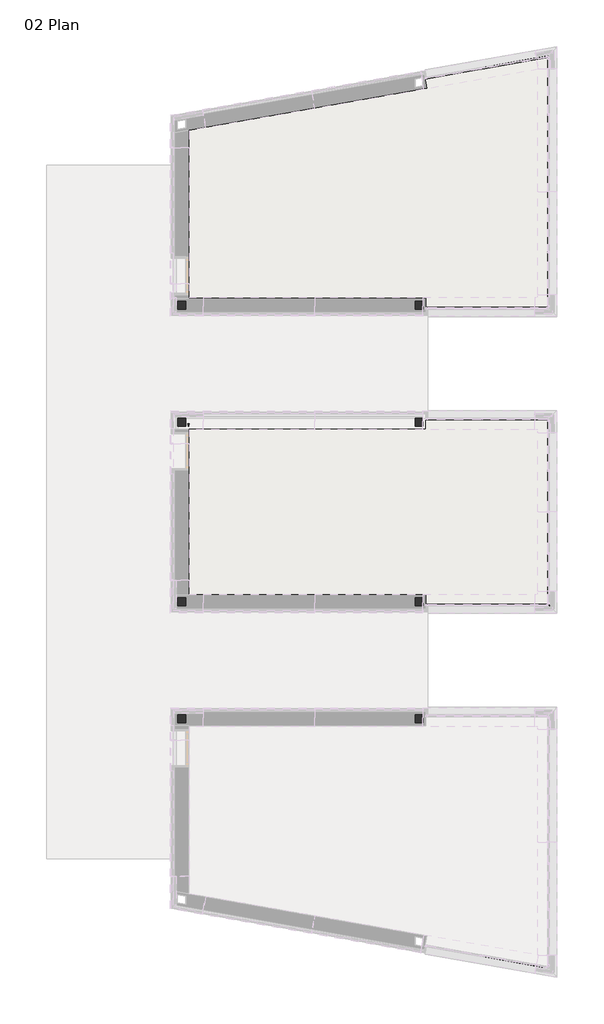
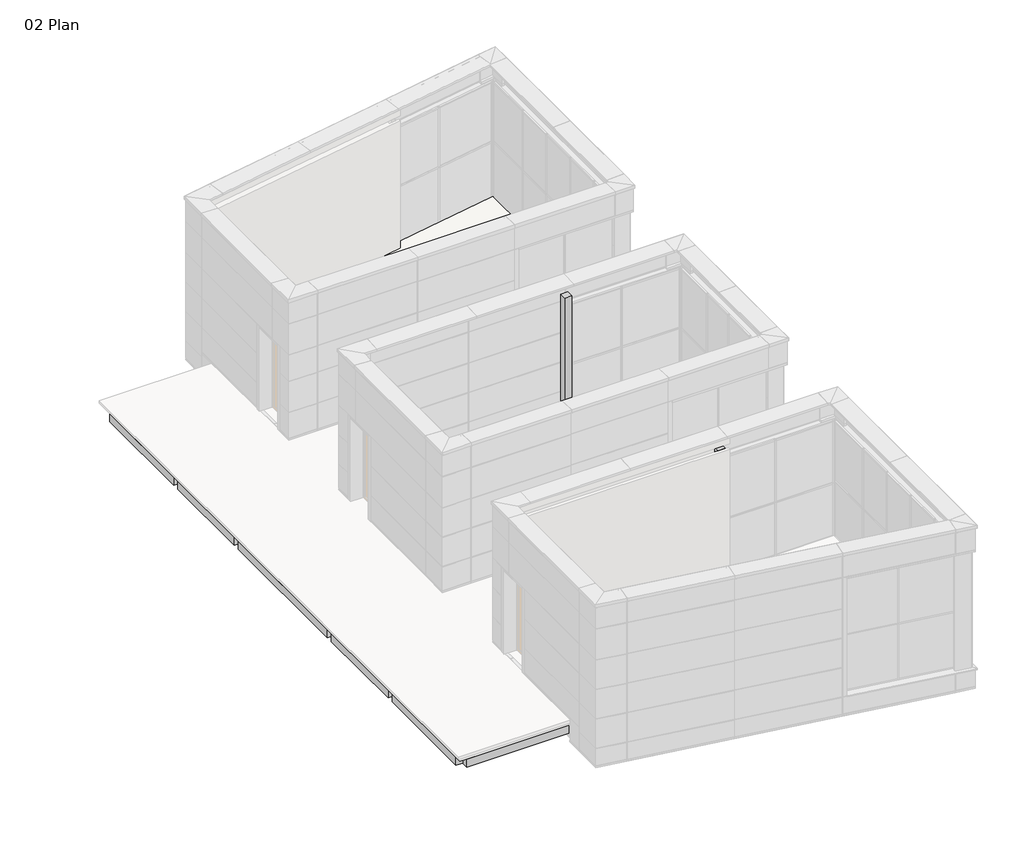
# One storey, part 6 of 6: 14 beams, 8 columns, 3 proxies, 2 slabs.
"""IFC4 building model written with IfcOpenShell, lengths in millimetres."""

from ifc_helpers import new_model, si_unit, frame, origin, place, context, project, spatial, polyline, outline, extrude, faceted_brep, transform, mapped, element, save
from components import m_support_metal_circular_m_support_metal_circular_a779fbb7

model = new_model("IFC4")

# Units and contexts
model_context = context("Model", 3, world=origin())
ifc_project = project(units=[si_unit("LENGTHUNIT", "METRE", prefix="MILLI")], contexts=[model_context])

# Site, building, storey
site = spatial("IfcSite", under=ifc_project)
building = spatial("IfcBuilding", under=site)
storey = spatial("IfcBuildingStorey", under=building, Name="02 Plan", Elevation=0.0)

# Beams
placement = place(None, origin())
element("IfcBeam", 1, ObjectType="M_Concrete-Rectangular Beam : Beam_Structural_Generic Showcase_250x500mm", at=placement, inside=storey, context=model_context, shape_type="Brep", body=[
    faceted_brep([(3950.6615063, 6495.5895435, -600.0), (4050.6615063, 6495.5895435, -600.0), (7650.6615063, 6495.5895435, -600.0), (8000.6615063, 6495.5895435, -600.0), (8000.6615063, 6495.5895435, -300.0), (3950.6615063, 6495.5895435, -300.0), (3950.6615063, 6745.5895435, -600.0), (4050.6615063, 6745.5895435, -600.0), (7650.6615063, 6745.5895435, -600.0), (7750.6615063, 6745.5895435, -600.0), (8000.6615063, 6745.5895435, -600.0), (3950.6615063, 6745.5895435, -300.0), (4050.6615063, 6745.5895435, -300.0), (7650.6615063, 6745.5895435, -300.0), (7750.6615063, 6745.5895435, -300.0), (8000.6615063, 6745.5895435, -300.0)], [[[0, 1, 2, 3, 4, 5]], [[0, 6, 7, 8, 9, 10, 3, 2, 1]], [[10, 9, 8, 7, 6, 11, 12, 13, 14, 15]], [[6, 0, 5, 11]], [[5, 4, 15, 14, 13, 12, 11]], [[3, 10, 15, 4]]]),
    faceted_brep([(-7699.3384937, 6745.5895435, -600.0), (-7699.3384937, 6495.5895435, -600.0), (-7699.3384937, 6495.5895435, -300.0), (-7699.3384937, 6745.5895435, -300.0), (-3899.3384937, 6495.5895435, -600.0), (-3899.3384937, 6745.5895435, -600.0), (-3899.3384937, 6745.5895435, -300.0), (-3899.3384937, 6495.5895435, -300.0), (-7599.3384937, 6495.5895435, -600.0), (-3999.3384937, 6495.5895435, -600.0), (-3999.3384937, 6495.5895435, -300.0), (-7599.3384937, 6495.5895435, -300.0), (-7599.3384937, 6745.5895435, -600.0), (-3999.3384937, 6745.5895435, -600.0), (-7599.3384937, 6745.5895435, -300.0), (-3999.3384937, 6745.5895435, -300.0)], [[[0, 1, 2, 3]], [[4, 5, 6, 7]], [[1, 8, 9, 4, 7, 10, 11, 2]], [[1, 0, 12, 13, 5, 4, 9, 8]], [[5, 13, 12, 0, 3, 14, 15, 6]], [[3, 2, 11, 10, 7, 6, 15, 14]]]),
    faceted_brep([(-3649.3384937, 6745.5895435, -600.0), (-3649.3384937, 6495.5895435, -600.0), (-3649.3384937, 6495.5895435, -300.0), (-3649.3384937, 6745.5895435, -300.0), (3700.6615063, 6495.5895435, -600.0), (3700.6615063, 6745.5895435, -600.0), (3700.6615063, 6745.5895435, -300.0), (3700.6615063, 6495.5895435, -300.0)], [[[0, 1, 2, 3]], [[4, 5, 6, 7]], [[1, 4, 7, 2]], [[1, 0, 5, 4]], [[5, 0, 3, 6]], [[3, 2, 7, 6]]]),
])
element("IfcBeam", 2, ObjectType="M_Concrete-Rectangular Beam : Beam_Structural_Generic Showcase_250x500mm", at=placement, inside=storey, context=model_context, shape_type="Brep", body=[
    faceted_brep([(3950.6615063, 2745.5895435, -600.0), (4050.6615063, 2745.5895435, -600.0), (7650.6615063, 2745.5895435, -600.0), (7750.6615063, 2745.5895435, -600.0), (8000.6615063, 2745.5895435, -600.0), (8000.6615063, 2745.5895435, -300.0), (7750.6615063, 2745.5895435, -300.0), (7650.6615063, 2745.5895435, -300.0), (4050.6615063, 2745.5895435, -300.0), (3950.6615063, 2745.5895435, -300.0), (3950.6615063, 2995.5895435, -600.0), (4050.6615063, 2995.5895435, -600.0), (7650.6615063, 2995.5895435, -600.0), (8000.6615063, 2995.5895435, -600.0), (3950.6615063, 2995.5895435, -300.0), (8000.6615063, 2995.5895435, -300.0)], [[[0, 1, 2, 3, 4, 5, 6, 7, 8, 9]], [[0, 10, 11, 12, 13, 4, 3, 2, 1]], [[13, 12, 11, 10, 14, 15]], [[10, 0, 9, 14]], [[9, 8, 7, 6, 5, 15, 14]], [[4, 13, 15, 5]]]),
    faceted_brep([(-7699.3384937, 2995.5895435, -600.0), (-7699.3384937, 2745.5895435, -600.0), (-7699.3384937, 2745.5895435, -300.0), (-7699.3384937, 2995.5895435, -300.0), (-3899.3384937, 2745.5895435, -600.0), (-3899.3384937, 2995.5895435, -600.0), (-3899.3384937, 2995.5895435, -300.0), (-3899.3384937, 2745.5895435, -300.0), (-7599.3384937, 2745.5895435, -600.0), (-3999.3384937, 2745.5895435, -600.0), (-3999.3384937, 2745.5895435, -300.0), (-7599.3384937, 2745.5895435, -300.0), (-7599.3384937, 2995.5895435, -600.0), (-3999.3384937, 2995.5895435, -600.0), (-7599.3384937, 2995.5895435, -300.0), (-3999.3384937, 2995.5895435, -300.0)], [[[0, 1, 2, 3]], [[4, 5, 6, 7]], [[1, 8, 9, 4, 7, 10, 11, 2]], [[1, 0, 12, 13, 5, 4, 9, 8]], [[5, 13, 12, 0, 3, 14, 15, 6]], [[3, 2, 11, 10, 7, 6, 15, 14]]]),
    faceted_brep([(-3649.3384937, 2995.5895435, -600.0), (-3649.3384937, 2745.5895435, -600.0), (-3649.3384937, 2745.5895435, -300.0), (-3649.3384937, 2995.5895435, -300.0), (3700.6615063, 2745.5895435, -600.0), (3700.6615063, 2995.5895435, -600.0), (3700.6615063, 2995.5895435, -300.0), (3700.6615063, 2745.5895435, -300.0)], [[[0, 1, 2, 3]], [[4, 5, 6, 7]], [[1, 4, 7, 2]], [[1, 0, 5, 4]], [[5, 0, 3, 6]], [[3, 2, 7, 6]]]),
])
element("IfcBeam", 3, ObjectType="M_Concrete-Rectangular Beam : Beam_Structural_Generic Showcase_250x500mm", at=placement, inside=storey, context=model_context, shape_type="Brep", body=[
    faceted_brep([(3950.6615063, -3004.4104565, -600.0), (4050.6615063, -3004.4104565, -600.0), (7650.6615063, -3004.4104565, -600.0), (8000.6615063, -3004.4104565, -600.0), (8000.6615063, -3004.4104565, -300.0), (3950.6615063, -3004.4104565, -300.0), (3950.6615063, -2754.4104565, -600.0), (4050.6615063, -2754.4104565, -600.0), (7650.6615063, -2754.4104565, -600.0), (7750.6615063, -2754.4104565, -600.0), (8000.6615063, -2754.4104565, -600.0), (3950.6615063, -2754.4104565, -300.0), (4050.6615063, -2754.4104565, -300.0), (7650.6615063, -2754.4104565, -300.0), (7750.6615063, -2754.4104565, -300.0), (8000.6615063, -2754.4104565, -300.0)], [[[0, 1, 2, 3, 4, 5]], [[0, 6, 7, 8, 9, 10, 3, 2, 1]], [[10, 9, 8, 7, 6, 11, 12, 13, 14, 15]], [[6, 0, 5, 11]], [[5, 4, 15, 14, 13, 12, 11]], [[3, 10, 15, 4]]]),
    faceted_brep([(-7699.3384937, -2754.4104565, -600.0), (-7699.3384937, -3004.4104565, -600.0), (-7699.3384937, -3004.4104565, -300.0), (-7699.3384937, -2754.4104565, -300.0), (-3899.3384937, -3004.4104565, -600.0), (-3899.3384937, -2754.4104565, -600.0), (-3899.3384937, -2754.4104565, -300.0), (-3899.3384937, -3004.4104565, -300.0), (-7599.3384937, -3004.4104565, -600.0), (-3999.3384937, -3004.4104565, -600.0), (-3999.3384937, -3004.4104565, -300.0), (-7599.3384937, -3004.4104565, -300.0), (-7599.3384937, -2754.4104565, -600.0), (-3999.3384937, -2754.4104565, -600.0), (-7599.3384937, -2754.4104565, -300.0), (-3999.3384937, -2754.4104565, -300.0)], [[[0, 1, 2, 3]], [[4, 5, 6, 7]], [[1, 8, 9, 4, 7, 10, 11, 2]], [[1, 0, 12, 13, 5, 4, 9, 8]], [[5, 13, 12, 0, 3, 14, 15, 6]], [[3, 2, 11, 10, 7, 6, 15, 14]]]),
    faceted_brep([(-3649.3384937, -2754.4104565, -600.0), (-3649.3384937, -3004.4104565, -600.0), (-3649.3384937, -3004.4104565, -300.0), (-3649.3384937, -2754.4104565, -300.0), (3700.6615063, -3004.4104565, -600.0), (3700.6615063, -2754.4104565, -600.0), (3700.6615063, -2754.4104565, -300.0), (3700.6615063, -3004.4104565, -300.0), (3600.6615063, -3004.4104565, -600.0), (3600.6615063, -3004.4104565, -300.0), (3600.6615063, -2754.4104565, -600.0), (3600.6615063, -2754.4104565, -300.0)], [[[0, 1, 2, 3]], [[4, 5, 6, 7]], [[1, 8, 4, 7, 9, 2]], [[1, 0, 10, 5, 4, 8]], [[5, 10, 0, 3, 11, 6]], [[3, 2, 9, 7, 6, 11]]]),
])
element("IfcBeam", 4, ObjectType="M_Concrete-Rectangular Beam : Beam_Structural_Generic Showcase_250x500mm", at=placement, inside=storey, context=model_context, shape_type="Brep", body=[
    faceted_brep([(3950.6615063, -6754.4104565, -600.0), (4050.6615063, -6754.4104565, -600.0), (7650.6615063, -6754.4104565, -600.0), (7750.6615063, -6754.4104565, -600.0), (8000.6615063, -6754.4104565, -600.0), (8000.6615063, -6754.4104565, -300.0), (7750.6615063, -6754.4104565, -300.0), (7650.6615063, -6754.4104565, -300.0), (4050.6615063, -6754.4104565, -300.0), (3950.6615063, -6754.4104565, -300.0), (3950.6615063, -6504.4104565, -600.0), (4050.6615063, -6504.4104565, -600.0), (7650.6615063, -6504.4104565, -600.0), (8000.6615063, -6504.4104565, -600.0), (3950.6615063, -6504.4104565, -300.0), (8000.6615063, -6504.4104565, -300.0)], [[[0, 1, 2, 3, 4, 5, 6, 7, 8, 9]], [[0, 10, 11, 12, 13, 4, 3, 2, 1]], [[13, 12, 11, 10, 14, 15]], [[10, 0, 9, 14]], [[9, 8, 7, 6, 5, 15, 14]], [[4, 13, 15, 5]]]),
    faceted_brep([(-7699.3384937, -6504.4104565, -600.0), (-7699.3384937, -6754.4104565, -600.0), (-7699.3384937, -6754.4104565, -300.0), (-7699.3384937, -6504.4104565, -300.0), (-3899.3384937, -6754.4104565, -600.0), (-3899.3384937, -6504.4104565, -600.0), (-3899.3384937, -6504.4104565, -300.0), (-3899.3384937, -6754.4104565, -300.0), (-7599.3384937, -6754.4104565, -600.0), (-3999.3384937, -6754.4104565, -600.0), (-3999.3384937, -6754.4104565, -300.0), (-7599.3384937, -6754.4104565, -300.0), (-7599.3384937, -6504.4104565, -600.0), (-3999.3384937, -6504.4104565, -600.0), (-7599.3384937, -6504.4104565, -300.0), (-3999.3384937, -6504.4104565, -300.0)], [[[0, 1, 2, 3]], [[4, 5, 6, 7]], [[1, 8, 9, 4, 7, 10, 11, 2]], [[1, 0, 12, 13, 5, 4, 9, 8]], [[5, 13, 12, 0, 3, 14, 15, 6]], [[3, 2, 11, 10, 7, 6, 15, 14]]]),
    faceted_brep([(-3649.3384937, -6504.4104565, -600.0), (-3649.3384937, -6754.4104565, -600.0), (-3649.3384937, -6754.4104565, -300.0), (-3649.3384937, -6504.4104565, -300.0), (3700.6615063, -6754.4104565, -600.0), (3700.6615063, -6504.4104565, -600.0), (3700.6615063, -6504.4104565, -300.0), (3700.6615063, -6754.4104565, -300.0), (3600.6615063, -6754.4104565, -600.0), (3600.6615063, -6754.4104565, -300.0), (3600.6615063, -6504.4104565, -600.0), (3600.6615063, -6504.4104565, -300.0)], [[[0, 1, 2, 3]], [[4, 5, 6, 7]], [[1, 8, 4, 7, 9, 2]], [[1, 0, 10, 5, 4, 8]], [[5, 10, 0, 3, 11, 6]], [[3, 2, 9, 7, 6, 11]]]),
])
element("IfcBeam", 5, ObjectType="M_Concrete-Rectangular Beam : Beam_Structural_Generic Showcase_250x500mm", at=placement, inside=storey, context=model_context, shape_type="Brep", body=[
    faceted_brep([(-3899.3384937, -12253.9438404, -600.0), (-3649.3384937, -12253.9438404, -600.0), (-3649.3384937, -12253.9438404, -300.0), (-3899.3384937, -12253.9438404, -300.0), (-3899.3384937, -10954.4104565, -600.0), (-3899.3384937, -11054.4104565, -600.0), (-3899.3384937, -10954.4104565, -300.0), (-3649.3384937, -10954.4104565, -600.0), (-3649.3384937, -11054.4104565, -600.0), (-3649.3384937, -10954.4104565, -300.0), (-3649.3384937, -11054.4104565, -300.0)], [[[0, 1, 2, 3]], [[4, 5, 0, 3, 6]], [[1, 0, 5, 4, 7, 8]], [[1, 8, 7, 9, 10, 2]], [[7, 4, 6, 9]], [[3, 2, 10, 9, 6]]]),
    faceted_brep([(-3649.3384937, 12245.1229274, -600.0), (-3899.3384937, 12245.1229274, -600.0), (-3899.3384937, 12245.1229274, -300.0), (-3649.3384937, 12245.1229274, -300.0), (-3899.3384937, 10945.5895435, -600.0), (-3649.3384937, 10945.5895435, -600.0), (-3649.3384937, 10945.5895435, -300.0), (-3899.3384937, 10945.5895435, -300.0), (-3899.3384937, 11045.5895435, -600.0), (-3649.3384937, 11045.5895435, -600.0), (-3649.3384937, 11045.5895435, -300.0)], [[[0, 1, 2, 3]], [[4, 5, 6, 7]], [[1, 8, 4, 7, 2]], [[1, 0, 9, 5, 4, 8]], [[5, 9, 0, 3, 10, 6]], [[3, 2, 7, 6, 10]]]),
    faceted_brep([(-3649.3384937, 6495.5895435, -600.0), (-3899.3384937, 6495.5895435, -600.0), (-3899.3384937, 6495.5895435, -300.0), (-3649.3384937, 6495.5895435, -300.0), (-3899.3384937, 2995.5895435, -600.0), (-3649.3384937, 2995.5895435, -600.0), (-3649.3384937, 2995.5895435, -300.0), (-3899.3384937, 2995.5895435, -300.0), (-3899.3384937, 6395.5895435, -600.0), (-3899.3384937, 3095.5895435, -600.0), (-3899.3384937, 3095.5895435, -300.0), (-3899.3384937, 6395.5895435, -300.0), (-3649.3384937, 6395.5895435, -600.0), (-3649.3384937, 3095.5895435, -600.0), (-3649.3384937, 6395.5895435, -300.0), (-3649.3384937, 3095.5895435, -300.0)], [[[0, 1, 2, 3]], [[4, 5, 6, 7]], [[1, 8, 9, 4, 7, 10, 11, 2]], [[1, 0, 12, 13, 5, 4, 9, 8]], [[5, 13, 12, 0, 3, 14, 15, 6]], [[3, 2, 11, 10, 7, 6, 15, 14]]]),
    faceted_brep([(-3899.3384937, 6745.5895435, -600.0), (-3649.3384937, 6745.5895435, -600.0), (-3649.3384937, 6745.5895435, -300.0), (-3899.3384937, 6745.5895435, -300.0), (-3899.3384937, 10695.5895435, -600.0), (-3899.3384937, 10595.5895435, -600.0), (-3899.3384937, 6845.5895435, -600.0), (-3899.3384937, 6845.5895435, -300.0), (-3899.3384937, 10595.5895435, -300.0), (-3899.3384937, 10695.5895435, -300.0), (-3649.3384937, 10695.5895435, -600.0), (-3649.3384937, 10595.5895435, -600.0), (-3649.3384937, 6845.5895435, -600.0), (-3649.3384937, 10695.5895435, -300.0), (-3649.3384937, 10595.5895435, -300.0), (-3649.3384937, 6845.5895435, -300.0)], [[[0, 1, 2, 3]], [[4, 5, 6, 0, 3, 7, 8, 9]], [[1, 0, 6, 5, 4, 10, 11, 12]], [[1, 12, 11, 10, 13, 14, 15, 2]], [[10, 4, 9, 13]], [[3, 2, 15, 14, 13, 9, 8, 7]]]),
    faceted_brep([(-3649.3384937, 2745.5895435, -600.0), (-3899.3384937, 2745.5895435, -600.0), (-3899.3384937, 2745.5895435, -300.0), (-3649.3384937, 2745.5895435, -300.0), (-3899.3384937, -2754.4104565, -600.0), (-3649.3384937, -2754.4104565, -600.0), (-3649.3384937, -2754.4104565, -300.0), (-3899.3384937, -2754.4104565, -300.0), (-3899.3384937, 2645.5895435, -600.0), (-3899.3384937, -2654.4104565, -600.0), (-3899.3384937, -2654.4104565, -300.0), (-3899.3384937, 2645.5895435, -300.0), (-3649.3384937, 2645.5895435, -600.0), (-3649.3384937, -2654.4104565, -600.0), (-3649.3384937, 2645.5895435, -300.0), (-3649.3384937, -2654.4104565, -300.0)], [[[0, 1, 2, 3]], [[4, 5, 6, 7]], [[1, 8, 9, 4, 7, 10, 11, 2]], [[1, 0, 12, 13, 5, 4, 9, 8]], [[5, 13, 12, 0, 3, 14, 15, 6]], [[3, 2, 11, 10, 7, 6, 15, 14]]]),
    faceted_brep([(-3649.3384937, -3004.4104565, -600.0), (-3899.3384937, -3004.4104565, -600.0), (-3899.3384937, -3004.4104565, -300.0), (-3649.3384937, -3004.4104565, -300.0), (-3899.3384937, -6504.4104565, -600.0), (-3649.3384937, -6504.4104565, -600.0), (-3649.3384937, -6504.4104565, -300.0), (-3899.3384937, -6504.4104565, -300.0), (-3899.3384937, -3104.4104565, -600.0), (-3899.3384937, -6404.4104565, -600.0), (-3899.3384937, -6404.4104565, -300.0), (-3899.3384937, -3104.4104565, -300.0), (-3649.3384937, -3104.4104565, -600.0), (-3649.3384937, -6404.4104565, -600.0), (-3649.3384937, -3104.4104565, -300.0), (-3649.3384937, -6404.4104565, -300.0)], [[[0, 1, 2, 3]], [[4, 5, 6, 7]], [[1, 8, 9, 4, 7, 10, 11, 2]], [[1, 0, 12, 13, 5, 4, 9, 8]], [[5, 13, 12, 0, 3, 14, 15, 6]], [[3, 2, 11, 10, 7, 6, 15, 14]]]),
    faceted_brep([(-3649.3384937, -6754.4104565, -600.0), (-3899.3384937, -6754.4104565, -600.0), (-3899.3384937, -6754.4104565, -300.0), (-3649.3384937, -6754.4104565, -300.0), (-3899.3384937, -10704.4104565, -600.0), (-3649.3384937, -10704.4104565, -600.0), (-3649.3384937, -10704.4104565, -300.0), (-3899.3384937, -10704.4104565, -300.0), (-3899.3384937, -6854.4104565, -600.0), (-3899.3384937, -10604.4104565, -600.0), (-3899.3384937, -10604.4104565, -300.0), (-3899.3384937, -6854.4104565, -300.0), (-3649.3384937, -6854.4104565, -600.0), (-3649.3384937, -10604.4104565, -600.0), (-3649.3384937, -6854.4104565, -300.0), (-3649.3384937, -10604.4104565, -300.0)], [[[0, 1, 2, 3]], [[4, 5, 6, 7]], [[1, 8, 9, 4, 7, 10, 11, 2]], [[1, 0, 12, 13, 5, 4, 9, 8]], [[5, 13, 12, 0, 3, 14, 15, 6]], [[3, 2, 11, 10, 7, 6, 15, 14]]]),
])
element("IfcBeam", 6, ObjectType="M_Concrete-Rectangular Beam : Beam_Structural_Generic Showcase_250x500mm", at=placement, inside=storey, context=model_context, shape_type="Brep", body=[
    faceted_brep([(3963.1685648, 13898.0517108, -600.0), (4006.5806092, 13651.8497725, -600.0), (4006.5806092, 13651.8497725, -300.0), (3963.1685648, 13898.0517108, -300.0), (7750.6615063, 14312.0322527, -600.0), (8000.6615063, 14356.1139978, -600.0), (8000.6615063, 14356.1139978, -300.0), (7750.6615063, 14312.0322527, -300.0), (7957.2494619, 14602.3159361, -600.0), (7957.2494619, 14602.3159361, -300.0)], [[[0, 1, 2, 3]], [[1, 4, 5, 6, 7, 2]], [[1, 0, 8, 5, 4]], [[8, 0, 3, 9]], [[3, 2, 7, 6, 9]], [[5, 8, 9, 6]]]),
])
element("IfcBeam", 7, ObjectType="M_Concrete-Rectangular Beam : Beam_Structural_Generic Showcase_250x500mm", at=placement, inside=storey, context=model_context, shape_type="Brep", body=[
    faceted_brep([(7750.6615063, 14312.0322527, -600.0), (7750.6615063, 14210.4895915, -600.0), (7750.6615063, 6745.5895435, -600.0), (7750.6615063, 6745.5895435, -300.0), (7750.6615063, 14210.4895915, -300.0), (7750.6615063, 14312.0322527, -300.0), (8000.6615063, 14356.1139978, -600.0), (8000.6615063, 14254.5713367, -600.0), (8000.6615063, 6745.5895435, -600.0), (8000.6615063, 14356.1139978, -300.0), (8000.6615063, 6745.5895435, -300.0)], [[[0, 1, 2, 3, 4, 5]], [[0, 6, 7, 8, 2, 1]], [[8, 7, 6, 9, 10]], [[6, 0, 5, 9]], [[2, 8, 10, 3]], [[5, 4, 3, 10, 9]]]),
])
element("IfcBeam", 8, ObjectType="M_Concrete-Rectangular Beam : Beam_Structural_Generic Showcase_250x500mm", at=placement, inside=storey, context=model_context, shape_type="SweptSolid", body=[
    extrude(outline(polyline([(7750.6615063, 2745.5895435), (8000.6615063, 2745.5895435), (8000.6615063, -2754.4104565), (7750.6615063, -2754.4104565), (7750.6615063, 2745.5895435)])), frame((0.0, 0.0, -600.0), z_axis=(0.0, 0.0, 1.0), x_axis=(1.0, 0.0, 0.0)), (0.0, 0.0, 1.0), 300.0),
])
element("IfcBeam", 9, ObjectType="M_Concrete-Rectangular Beam : Beam_Structural_Generic Showcase_250x500mm", at=placement, inside=storey, context=model_context, shape_type="Brep", body=[
    faceted_brep([(7750.6615063, -6754.4104565, -600.0), (7750.6615063, -14320.8531657, -600.0), (7750.6615063, -14574.7098186, -600.0), (7750.6615063, -14574.7098186, -300.0), (7750.6615063, -14320.8531657, -300.0), (7750.6615063, -6754.4104565, -300.0), (8000.6615063, -6754.4104565, -600.0), (8000.6615063, -14574.7098186, -600.0), (8000.6615063, -6754.4104565, -300.0), (8000.6615063, -14574.7098186, -300.0)], [[[0, 1, 2, 3, 4, 5]], [[0, 6, 7, 2, 1]], [[7, 6, 8, 9]], [[6, 0, 5, 8]], [[5, 4, 3, 9, 8]], [[2, 7, 9, 3]]]),
])
element("IfcBeam", 10, ObjectType="M_Concrete-Rectangular Beam : Beam_Structural_Generic Showcase_250x500mm", at=placement, inside=storey, context=model_context, shape_type="Brep", body=[
    faceted_brep([(4006.5806092, -13660.6706855, -600.0), (3963.1685648, -13906.8726238, -600.0), (3963.1685648, -13906.8726238, -300.0), (4006.5806092, -13660.6706855, -300.0), (7650.6615063, -14557.0771206, -600.0), (7750.6615063, -14574.7098186, -600.0), (7750.6615063, -14574.7098186, -300.0), (7650.6615063, -14303.2204676, -600.0), (7750.6615063, -14320.8531657, -600.0), (7650.6615063, -14303.2204676, -300.0), (7750.6615063, -14320.8531657, -300.0)], [[[0, 1, 2, 3]], [[1, 4, 5, 6, 2]], [[1, 0, 7, 8, 5, 4]], [[8, 7, 0, 3, 9, 10]], [[5, 8, 10, 6]], [[3, 2, 6, 10, 9]]]),
])
element("IfcBeam", 11, ObjectType="M_Concrete-Rectangular Beam : Beam_Structural_Generic Showcase_250x500mm", at=placement, inside=storey, context=model_context, shape_type="Brep", body=[
    faceted_brep([(3700.6615063, -12253.9438404, -600.0), (3950.6615063, -12253.9438404, -600.0), (3950.6615063, -12253.9438404, -300.0), (3700.6615063, -12253.9438404, -300.0), (3700.6615063, -10954.4104565, -600.0), (3700.6615063, -10954.4104565, -300.0), (3950.6615063, -10954.4104565, -600.0), (3950.6615063, -10954.4104565, -300.0)], [[[0, 1, 2, 3]], [[4, 0, 3, 5]], [[1, 0, 4, 6]], [[1, 6, 7, 2]], [[6, 4, 5, 7]], [[3, 2, 7, 5]]]),
    faceted_brep([(3950.6615063, 12245.1229274, -600.0), (3700.6615063, 12245.1229274, -600.0), (3700.6615063, 12245.1229274, -300.0), (3950.6615063, 12245.1229274, -300.0), (3700.6615063, 10945.5895435, -600.0), (3950.6615063, 10945.5895435, -600.0), (3950.6615063, 10945.5895435, -300.0), (3700.6615063, 10945.5895435, -300.0)], [[[0, 1, 2, 3]], [[4, 5, 6, 7]], [[1, 4, 7, 2]], [[1, 0, 5, 4]], [[5, 0, 3, 6]], [[3, 2, 7, 6]]]),
    faceted_brep([(3950.6615063, 6495.5895435, -600.0), (3700.6615063, 6495.5895435, -600.0), (3700.6615063, 6495.5895435, -300.0), (3950.6615063, 6495.5895435, -300.0), (3700.6615063, 2995.5895435, -600.0), (3950.6615063, 2995.5895435, -600.0), (3950.6615063, 2995.5895435, -300.0), (3700.6615063, 2995.5895435, -300.0), (3700.6615063, 6395.5895435, -600.0), (3700.6615063, 3095.5895435, -600.0), (3700.6615063, 3095.5895435, -300.0), (3700.6615063, 6395.5895435, -300.0), (3950.6615063, 6395.5895435, -600.0), (3950.6615063, 3095.5895435, -600.0)], [[[0, 1, 2, 3]], [[4, 5, 6, 7]], [[1, 8, 9, 4, 7, 10, 11, 2]], [[1, 0, 12, 13, 5, 4, 9, 8]], [[5, 13, 12, 0, 3, 6]], [[3, 2, 11, 10, 7, 6]]]),
    faceted_brep([(3700.6615063, 6745.5895435, -600.0), (3950.6615063, 6745.5895435, -600.0), (3950.6615063, 6745.5895435, -300.0), (3700.6615063, 6745.5895435, -300.0), (3700.6615063, 10695.5895435, -600.0), (3700.6615063, 6845.5895435, -600.0), (3700.6615063, 6845.5895435, -300.0), (3700.6615063, 10695.5895435, -300.0), (3950.6615063, 10695.5895435, -600.0), (3950.6615063, 6845.5895435, -600.0), (3950.6615063, 10695.5895435, -300.0), (3950.6615063, 6845.5895435, -300.0)], [[[0, 1, 2, 3]], [[4, 5, 0, 3, 6, 7]], [[1, 0, 5, 4, 8, 9]], [[1, 9, 8, 10, 11, 2]], [[8, 4, 7, 10]], [[3, 2, 11, 10, 7, 6]]]),
    faceted_brep([(3950.6615063, 2745.5895435, -600.0), (3700.6615063, 2745.5895435, -600.0), (3700.6615063, 2745.5895435, -300.0), (3950.6615063, 2745.5895435, -300.0), (3700.6615063, -2754.4104565, -600.0), (3950.6615063, -2754.4104565, -600.0), (3950.6615063, -2754.4104565, -300.0), (3700.6615063, -2754.4104565, -300.0), (3700.6615063, 2645.5895435, -300.0), (3950.6615063, 2645.5895435, -300.0), (3700.6615063, 2645.5895435, -600.0), (3950.6615063, 2645.5895435, -600.0)], [[[0, 1, 2, 3]], [[4, 5, 6, 7]], [[3, 2, 8, 7, 6, 9]], [[1, 10, 4, 7, 8, 2]], [[1, 0, 11, 5, 4, 10]], [[5, 11, 0, 3, 9, 6]]]),
    faceted_brep([(3950.6615063, -3004.4104565, -600.0), (3700.6615063, -3004.4104565, -600.0), (3700.6615063, -3004.4104565, -300.0), (3950.6615063, -3004.4104565, -300.0), (3700.6615063, -6504.4104565, -600.0), (3950.6615063, -6504.4104565, -600.0), (3950.6615063, -6504.4104565, -300.0), (3700.6615063, -6504.4104565, -300.0)], [[[0, 1, 2, 3]], [[4, 5, 6, 7]], [[3, 2, 7, 6]], [[1, 4, 7, 2]], [[1, 0, 5, 4]], [[5, 0, 3, 6]]]),
    faceted_brep([(3950.6615063, -6754.4104565, -600.0), (3700.6615063, -6754.4104565, -600.0), (3700.6615063, -6754.4104565, -300.0), (3950.6615063, -6754.4104565, -300.0), (3700.6615063, -10704.4104565, -600.0), (3950.6615063, -10704.4104565, -600.0), (3950.6615063, -10704.4104565, -300.0), (3700.6615063, -10704.4104565, -300.0)], [[[0, 1, 2, 3]], [[4, 5, 6, 7]], [[3, 2, 7, 6]], [[1, 4, 7, 2]], [[1, 0, 5, 4]], [[5, 0, 3, 6]]]),
])
element("IfcBeam", 12, ObjectType="M_Concrete-Rectangular Beam : Beam_Structural_Generic Showcase_250x500mm", at=placement, inside=storey, context=model_context, shape_type="Brep", body=[
    faceted_brep([(-7949.3384937, -6754.4104565, -600.0), (-7949.3384937, -10604.4104565, -600.0), (-7949.3384937, -10704.4104565, -600.0), (-7949.3384937, -10704.4104565, -300.0), (-7949.3384937, -6754.4104565, -300.0), (-7699.3384937, -6754.4104565, -600.0), (-7699.3384937, -10604.4104565, -600.0), (-7699.3384937, -10704.4104565, -600.0), (-7699.3384937, -6754.4104565, -300.0), (-7699.3384937, -10604.4104565, -300.0), (-7699.3384937, -10704.4104565, -300.0)], [[[0, 1, 2, 3, 4]], [[0, 5, 6, 7, 2, 1]], [[7, 6, 5, 8, 9, 10]], [[5, 0, 4, 8]], [[2, 7, 10, 3]], [[4, 3, 10, 9, 8]]]),
    faceted_brep([(-7699.3384937, 6495.5895435, -600.0), (-7949.3384937, 6495.5895435, -600.0), (-7949.3384937, 6495.5895435, -300.0), (-7699.3384937, 6495.5895435, -300.0), (-7949.3384937, 2995.5895435, -600.0), (-7699.3384937, 2995.5895435, -600.0), (-7699.3384937, 2995.5895435, -300.0), (-7949.3384937, 2995.5895435, -300.0)], [[[0, 1, 2, 3]], [[4, 5, 6, 7]], [[5, 0, 3, 6]], [[1, 4, 7, 2]], [[1, 0, 5, 4]], [[3, 2, 7, 6]]]),
    faceted_brep([(-7949.3384937, 6745.5895435, -600.0), (-7699.3384937, 6745.5895435, -600.0), (-7699.3384937, 6745.5895435, -300.0), (-7949.3384937, 6745.5895435, -300.0), (-7699.3384937, 10595.5895435, -600.0), (-7699.3384937, 10695.5895435, -600.0), (-7699.3384937, 10695.5895435, -300.0), (-7699.3384937, 10595.5895435, -300.0), (-7949.3384937, 10695.5895435, -600.0), (-7949.3384937, 10695.5895435, -300.0), (-7949.3384937, 10595.5895435, -600.0)], [[[0, 1, 2, 3]], [[1, 4, 5, 6, 7, 2]], [[5, 8, 9, 6]], [[8, 10, 0, 3, 9]], [[1, 0, 10, 8, 5, 4]], [[3, 2, 7, 6, 9]]]),
    faceted_brep([(-7699.3384937, 2745.5895435, -600.0), (-7949.3384937, 2745.5895435, -600.0), (-7949.3384937, 2745.5895435, -300.0), (-7699.3384937, 2745.5895435, -300.0), (-7949.3384937, -2754.4104565, -600.0), (-7699.3384937, -2754.4104565, -600.0), (-7699.3384937, -2754.4104565, -300.0), (-7949.3384937, -2754.4104565, -300.0)], [[[0, 1, 2, 3]], [[4, 5, 6, 7]], [[5, 0, 3, 6]], [[1, 4, 7, 2]], [[1, 0, 5, 4]], [[3, 2, 7, 6]]]),
    faceted_brep([(-7699.3384937, -3004.4104565, -600.0), (-7949.3384937, -3004.4104565, -600.0), (-7949.3384937, -3004.4104565, -300.0), (-7699.3384937, -3004.4104565, -300.0), (-7949.3384937, -6504.4104565, -600.0), (-7699.3384937, -6504.4104565, -600.0), (-7699.3384937, -6504.4104565, -300.0), (-7949.3384937, -6504.4104565, -300.0)], [[[0, 1, 2, 3]], [[4, 5, 6, 7]], [[5, 0, 3, 6]], [[1, 4, 7, 2]], [[1, 0, 5, 4]], [[3, 2, 7, 6]]]),
])
element("IfcBeam", 13, ObjectType="M_Concrete-Rectangular Beam : Beam_Structural_Generic Showcase_250x500mm", at=placement, inside=storey, context=model_context, shape_type="Brep", body=[
    faceted_brep([(-7699.3384937, -10954.4104565, -600.0), (-3899.3384937, -10954.4104565, -600.0), (-3899.3384937, -10954.4104565, -300.0), (-7699.3384937, -10954.4104565, -300.0), (-3899.3384937, -10704.4104565, -600.0), (-7699.3384937, -10704.4104565, -600.0), (-7699.3384937, -10704.4104565, -300.0), (-3899.3384937, -10704.4104565, -300.0)], [[[0, 1, 2, 3]], [[4, 1, 0, 5]], [[4, 5, 6, 7]], [[5, 0, 3, 6]], [[1, 4, 7, 2]], [[3, 2, 7, 6]]]),
    faceted_brep([(-3649.3384937, -10704.4104565, -600.0), (-3649.3384937, -10954.4104565, -600.0), (-3649.3384937, -10954.4104565, -300.0), (-3649.3384937, -10704.4104565, -300.0), (-3549.3384937, -10954.4104565, -600.0), (3600.6615063, -10954.4104565, -600.0), (3700.6615063, -10954.4104565, -600.0), (3700.6615063, -10954.4104565, -300.0), (3600.6615063, -10954.4104565, -300.0), (-3549.3384937, -10954.4104565, -300.0), (-3549.3384937, -10704.4104565, -600.0), (3600.6615063, -10704.4104565, -600.0), (3700.6615063, -10704.4104565, -600.0), (-3549.3384937, -10704.4104565, -300.0), (3600.6615063, -10704.4104565, -300.0), (3700.6615063, -10704.4104565, -300.0)], [[[0, 1, 2, 3]], [[1, 4, 5, 6, 7, 8, 9, 2]], [[1, 0, 10, 11, 12, 6, 5, 4]], [[12, 11, 10, 0, 3, 13, 14, 15]], [[6, 12, 15, 7]], [[3, 2, 9, 8, 7, 15, 14, 13]]]),
])
element("IfcBeam", 14, ObjectType="M_Concrete-Rectangular Beam : Beam_Structural_Generic Showcase_250x500mm", at=placement, inside=storey, context=model_context, shape_type="Brep", body=[
    faceted_brep([(-7699.3384937, 10695.5895435, -600.0), (-3999.3384937, 10695.5895435, -600.0), (-3899.3384937, 10695.5895435, -600.0), (-3899.3384937, 10695.5895435, -300.0), (-3999.3384937, 10695.5895435, -300.0), (-7699.3384937, 10695.5895435, -300.0), (-3899.3384937, 10945.5895435, -600.0), (-7699.3384937, 10945.5895435, -600.0), (-3999.3384937, 10945.5895435, -600.0), (-7699.3384937, 10945.5895435, -300.0), (-3899.3384937, 10945.5895435, -300.0)], [[[0, 1, 2, 3, 4, 5]], [[6, 2, 1, 0, 7, 8]], [[6, 8, 7, 9, 10]], [[7, 0, 5, 9]], [[2, 6, 10, 3]], [[5, 4, 3, 10, 9]]]),
    faceted_brep([(-3649.3384937, 10945.5895435, -600.0), (-3649.3384937, 10695.5895435, -600.0), (-3649.3384937, 10695.5895435, -300.0), (-3649.3384937, 10945.5895435, -300.0), (3600.6615063, 10695.5895435, -600.0), (3700.6615063, 10695.5895435, -600.0), (3700.6615063, 10695.5895435, -300.0), (3600.6615063, 10695.5895435, -300.0), (3600.6615063, 10945.5895435, -600.0), (3700.6615063, 10945.5895435, -600.0), (3600.6615063, 10945.5895435, -300.0), (3700.6615063, 10945.5895435, -300.0)], [[[0, 1, 2, 3]], [[1, 4, 5, 6, 7, 2]], [[1, 0, 8, 9, 5, 4]], [[9, 8, 0, 3, 10, 11]], [[5, 9, 11, 6]], [[3, 2, 7, 6, 11, 10]]]),
])

# Proxies
m_support_metal_circular_m_support_metal_circular_shape = m_support_metal_circular_m_support_metal_circular_a779fbb7(model_context)
element("IfcBuildingElementProxy", 15, Name="M_Support - Metal - Circular : M_Support - Metal - Circular", ObjectType="M_Support - Metal - Circular : M_Support - Metal - Circular", at=placement, inside=storey, context=model_context, shape_type="MappedRepresentation", body=[
    mapped(m_support_metal_circular_m_support_metal_circular_shape, transform((-3549.3384937, 2745.5895435, 0.0), x_axis=(1.0, 0.0, 0.0), y_axis=(0.0, 1.0, 0.0), z_axis=(0.0, 0.0, 1.0))),
])
element("IfcBuildingElementProxy", 16, Name="M_Support - Metal - Circular : M_Support - Metal - Circular", ObjectType="M_Support - Metal - Circular : M_Support - Metal - Circular", at=placement, inside=storey, context=model_context, shape_type="MappedRepresentation", body=[
    mapped(m_support_metal_circular_m_support_metal_circular_shape, transform((8000.6615063, -3004.4104565, 0.0), x_axis=(1.0, 0.0, 0.0), y_axis=(0.0, 1.0, 0.0), z_axis=(0.0, 0.0, 1.0))),
])
element("IfcBuildingElementProxy", 17, Name="M_Support - Metal - Circular : M_Support - Metal - Circular", ObjectType="M_Support - Metal - Circular : M_Support - Metal - Circular", at=placement, inside=storey, context=model_context, shape_type="MappedRepresentation", body=[
    mapped(m_support_metal_circular_m_support_metal_circular_shape, transform((-3774.3384937, -2879.4104565, 0.0), x_axis=(1.0, 0.0, 0.0), y_axis=(0.0, 1.0, 0.0), z_axis=(0.0, 0.0, 1.0))),
])

# Columns
element("IfcColumn", 18, ObjectType="M_Concrete-Rectangular-Column : Column_Structural_Generic Showcase_250x250mm", at=placement, inside=storey, context=model_context, shape_type="Brep", body=[
    faceted_brep([(-3649.3384937, 2995.5895435, -100.0), (-3649.3384937, 2745.5895435, -100.0), (-3899.3384937, 2745.5895435, -100.0), (-3899.3384937, 2995.5895435, -100.0), (-3649.3384937, 2995.5895435, 100.0), (-3649.3384937, 2995.5895435, 4400.0), (-3649.3384937, 2995.5895435, 4800.0), (-3649.3384937, 2745.5895435, 4800.0), (-3649.3384937, 2745.5895435, 4400.0), (-3899.3384937, 2745.5895435, 4800.0), (-3899.3384937, 2745.5895435, 4400.0), (-3899.3384937, 2745.5895435, 100.0), (-3899.3384937, 2995.5895435, 4800.0), (-3899.3384937, 2995.5895435, 100.0)], [[[0, 1, 2, 3]], [[1, 0, 4, 5, 6, 7, 8]], [[2, 1, 8, 7, 9, 10, 11]], [[3, 2, 11, 10, 9, 12, 13]], [[0, 3, 13, 12, 6, 5, 4]], [[7, 6, 12, 9]]]),
])
element("IfcColumn", 19, ObjectType="M_Concrete-Rectangular-Column : Column_Structural_Generic Showcase_250x250mm", at=placement, inside=storey, context=model_context, shape_type="Brep", body=[
    faceted_brep([(3950.6615063, 2995.5895435, -100.0), (3950.6615063, 2745.5895435, -100.0), (3700.6615063, 2745.5895435, -100.0), (3700.6615063, 2995.5895435, -100.0), (3950.6615063, 2995.5895435, 0.0), (3950.6615063, 2995.5895435, 100.0), (3950.6615063, 2995.5895435, 4400.0), (3950.6615063, 2995.5895435, 4800.0), (3950.6615063, 2745.5895435, 4800.0), (3950.6615063, 2745.5895435, 4400.0), (3950.6615063, 2745.5895435, 0.0), (3700.6615063, 2745.5895435, 4800.0), (3700.6615063, 2745.5895435, 4400.0), (3700.6615063, 2745.5895435, 0.0), (3700.6615063, 2995.5895435, 4800.0), (3700.6615063, 2995.5895435, 4400.0), (3700.6615063, 2995.5895435, 100.0), (3700.6615063, 2995.5895435, 0.0)], [[[0, 1, 2, 3]], [[1, 0, 4, 5, 6, 7, 8, 9, 10]], [[2, 1, 10, 9, 8, 11, 12, 13]], [[3, 2, 13, 12, 11, 14, 15, 16, 17]], [[0, 3, 17, 16, 15, 14, 7, 6, 5, 4]], [[8, 7, 14, 11]]]),
])
element("IfcColumn", 20, ObjectType="M_Concrete-Rectangular-Column : Column_Structural_Generic Showcase_250x250mm", at=placement, inside=storey, context=model_context, shape_type="Brep", body=[
    faceted_brep([(-3649.3384937, -2754.4104565, -100.0), (-3649.3384937, -3004.4104565, -100.0), (-3899.3384937, -3004.4104565, -100.0), (-3899.3384937, -2754.4104565, -100.0), (-3649.3384937, -2754.4104565, 4400.0), (-3649.3384937, -2754.4104565, 4800.0), (-3649.3384937, -3004.4104565, 4800.0), (-3649.3384937, -3004.4104565, 4400.0), (-3649.3384937, -3004.4104565, 100.0), (-3899.3384937, -3004.4104565, 4800.0), (-3899.3384937, -3004.4104565, 100.0), (-3899.3384937, -2754.4104565, 4800.0), (-3899.3384937, -2754.4104565, 4400.0), (-3899.3384937, -2754.4104565, 100.0)], [[[0, 1, 2, 3]], [[1, 0, 4, 5, 6, 7, 8]], [[2, 1, 8, 7, 6, 9, 10]], [[3, 2, 10, 9, 11, 12, 13]], [[0, 3, 13, 12, 11, 5, 4]], [[6, 5, 11, 9]]]),
])
element("IfcColumn", 21, ObjectType="M_Concrete-Rectangular-Column : Column_Structural_Generic Showcase_250x250mm", at=placement, inside=storey, context=model_context, shape_type="Brep", body=[
    faceted_brep([(3950.6615063, -2754.4104565, -100.0), (3950.6615063, -3004.4104565, -100.0), (3700.6615063, -3004.4104565, -100.0), (3700.6615063, -2754.4104565, -100.0), (3950.6615063, -2754.4104565, 0.0), (3950.6615063, -2754.4104565, 4400.0), (3950.6615063, -2754.4104565, 4800.0), (3950.6615063, -3004.4104565, 4800.0), (3950.6615063, -3004.4104565, 4400.0), (3950.6615063, -3004.4104565, 100.0), (3950.6615063, -3004.4104565, 0.0), (3700.6615063, -3004.4104565, 4800.0), (3700.6615063, -3004.4104565, 4400.0), (3700.6615063, -3004.4104565, 100.0), (3700.6615063, -3004.4104565, 0.0), (3700.6615063, -2754.4104565, 4800.0), (3700.6615063, -2754.4104565, 4400.0), (3700.6615063, -2754.4104565, 0.0)], [[[0, 1, 2, 3]], [[1, 0, 4, 5, 6, 7, 8, 9, 10]], [[2, 1, 10, 9, 8, 7, 11, 12, 13, 14]], [[3, 2, 14, 13, 12, 11, 15, 16, 17]], [[0, 3, 17, 16, 15, 6, 5, 4]], [[7, 6, 15, 11]]]),
])
element("IfcColumn", 22, ObjectType="M_Concrete-Rectangular-Column : Column_Structural_Generic Showcase_250x250mm", at=placement, inside=storey, context=model_context, shape_type="Brep", body=[
    faceted_brep([(-3649.3384937, -6504.4104565, -100.0), (-3649.3384937, -6754.4104565, -100.0), (-3899.3384937, -6754.4104565, -100.0), (-3899.3384937, -6504.4104565, -100.0), (-3649.3384937, -6504.4104565, 100.0), (-3649.3384937, -6504.4104565, 4400.0), (-3649.3384937, -6504.4104565, 4800.0), (-3649.3384937, -6754.4104565, 4800.0), (-3649.3384937, -6754.4104565, 4400.0), (-3899.3384937, -6754.4104565, 4800.0), (-3899.3384937, -6754.4104565, 4400.0), (-3899.3384937, -6754.4104565, 100.0), (-3899.3384937, -6504.4104565, 4800.0), (-3899.3384937, -6504.4104565, 100.0)], [[[0, 1, 2, 3]], [[1, 0, 4, 5, 6, 7, 8]], [[2, 1, 8, 7, 9, 10, 11]], [[3, 2, 11, 10, 9, 12, 13]], [[0, 3, 13, 12, 6, 5, 4]], [[7, 6, 12, 9]]]),
])
element("IfcColumn", 23, ObjectType="M_Concrete-Rectangular-Column : Column_Structural_Generic Showcase_250x250mm", at=placement, inside=storey, context=model_context, shape_type="Brep", body=[
    faceted_brep([(3950.6615063, -6504.4104565, -100.0), (3950.6615063, -6754.4104565, -100.0), (3700.6615063, -6754.4104565, -100.0), (3700.6615063, -6504.4104565, -100.0), (3950.6615063, -6504.4104565, 0.0), (3950.6615063, -6504.4104565, 100.0), (3950.6615063, -6504.4104565, 4400.0), (3950.6615063, -6504.4104565, 4800.0), (3950.6615063, -6754.4104565, 4800.0), (3950.6615063, -6754.4104565, 4400.0), (3950.6615063, -6754.4104565, 0.0), (3700.6615063, -6754.4104565, 4800.0), (3700.6615063, -6754.4104565, 4400.0), (3700.6615063, -6754.4104565, 0.0), (3700.6615063, -6504.4104565, 4800.0), (3700.6615063, -6504.4104565, 4400.0), (3700.6615063, -6504.4104565, 100.0), (3700.6615063, -6504.4104565, 0.0)], [[[0, 1, 2, 3]], [[1, 0, 4, 5, 6, 7, 8, 9, 10]], [[2, 1, 10, 9, 8, 11, 12, 13]], [[3, 2, 13, 12, 11, 14, 15, 16, 17]], [[0, 3, 17, 16, 15, 14, 7, 6, 5, 4]], [[8, 7, 14, 11]]]),
])
element("IfcColumn", 24, ObjectType="M_Concrete-Rectangular-Column : Column_Structural_Generic Showcase_250x250mm", at=placement, inside=storey, context=model_context, shape_type="Brep", body=[
    faceted_brep([(-3649.3384937, 6745.5895435, -100.0), (-3649.3384937, 6495.5895435, -100.0), (-3899.3384937, 6495.5895435, -100.0), (-3899.3384937, 6745.5895435, -100.0), (-3649.3384937, 6745.5895435, 4400.0), (-3649.3384937, 6745.5895435, 4800.0), (-3649.3384937, 6495.5895435, 4800.0), (-3649.3384937, 6495.5895435, 4400.0), (-3649.3384937, 6495.5895435, 100.0), (-3899.3384937, 6495.5895435, 4800.0), (-3899.3384937, 6495.5895435, 100.0), (-3899.3384937, 6745.5895435, 4800.0), (-3899.3384937, 6745.5895435, 4400.0), (-3899.3384937, 6745.5895435, 100.0)], [[[0, 1, 2, 3]], [[1, 0, 4, 5, 6, 7, 8]], [[2, 1, 8, 7, 6, 9, 10]], [[3, 2, 10, 9, 11, 12, 13]], [[0, 3, 13, 12, 11, 5, 4]], [[6, 5, 11, 9]]]),
])
element("IfcColumn", 25, ObjectType="M_Concrete-Rectangular-Column : Column_Structural_Generic Showcase_250x250mm", at=placement, inside=storey, context=model_context, shape_type="Brep", body=[
    faceted_brep([(3950.6615063, 6745.5895435, -100.0), (3950.6615063, 6495.5895435, -100.0), (3700.6615063, 6495.5895435, -100.0), (3700.6615063, 6745.5895435, -100.0), (3950.6615063, 6745.5895435, 0.0), (3950.6615063, 6745.5895435, 4400.0), (3950.6615063, 6745.5895435, 4800.0), (3950.6615063, 6495.5895435, 4800.0), (3950.6615063, 6495.5895435, 4400.0), (3950.6615063, 6495.5895435, 100.0), (3950.6615063, 6495.5895435, 0.0), (3700.6615063, 6495.5895435, 4800.0), (3700.6615063, 6495.5895435, 4400.0), (3700.6615063, 6495.5895435, 100.0), (3700.6615063, 6495.5895435, 0.0), (3700.6615063, 6745.5895435, 4800.0), (3700.6615063, 6745.5895435, 4400.0), (3700.6615063, 6745.5895435, 0.0)], [[[0, 1, 2, 3]], [[1, 0, 4, 5, 6, 7, 8, 9, 10]], [[2, 1, 10, 9, 8, 7, 11, 12, 13, 14]], [[3, 2, 14, 13, 12, 11, 15, 16, 17]], [[0, 3, 17, 16, 15, 6, 5, 4]], [[7, 6, 15, 11]]]),
])

# Slabs
element("IfcSlab", 26, ObjectType="Floor_Layers_Generic Showcase_100mm", at=placement, inside=storey, context=model_context, shape_type="Brep", body=[
    faceted_brep([(4050.6615063, 6845.5895435, -100.0), (3600.6615063, 6845.5895435, -100.0), (-3549.3384937, 6845.5895435, -100.0), (-3549.3384937, 6945.5895435, -100.0), (-3549.3384937, 8165.5895435, -100.0), (-3549.3384937, 12217.9947095, -100.0), (4078.8031863, 13563.0419003, -100.0), (4026.708733, 13858.4842262, -100.0), (7950.6615063, 14550.3829712, -100.0), (7950.6615063, 6545.5895435, -100.0), (4050.6615063, 6545.5895435, -100.0), (4050.6615063, 6845.5895435, 0.0), (4050.6615063, 6545.5895435, 0.0), (7950.6615063, 6545.5895435, 0.0), (7950.6615063, 14550.3829712, 0.0), (4026.708733, 13858.4842262, 0.0), (4078.8031863, 13563.0419003, 0.0), (-3549.3384937, 12217.9947095, 0.0), (-3549.3384937, 6845.5895435, 0.0), (3600.6615063, 6845.5895435, 0.0), (3950.6615063, 6845.5895435, 0.0)], [[[0, 1, 2, 3, 4, 5, 6, 7, 8, 9, 10]], [[11, 12, 13, 14, 15, 16, 17, 18, 19, 20]], [[2, 1, 0, 11, 20, 19, 18]], [[5, 4, 3, 2, 18, 17]], [[6, 5, 17, 16]], [[7, 6, 16, 15]], [[8, 7, 15, 14]], [[9, 8, 14, 13]], [[10, 9, 13, 12]], [[0, 10, 12, 11]]]),
])
element("IfcSlab", 27, ObjectType="Floor_Layers_Generic Showcase_100mm", at=placement, inside=storey, context=model_context, shape_type="Brep", body=[
    faceted_brep([(4050.6615063, 2645.5895435, -100.0), (4050.6615063, 2945.5895435, -100.0), (7950.6615063, 2945.5895435, -100.0), (7950.6615063, -2954.4104565, -100.0), (4050.6615063, -2954.4104565, -100.0), (4050.6615063, -2654.4104565, -100.0), (3600.6615063, -2654.4104565, -100.0), (-3549.3384937, -2654.4104565, -100.0), (-3549.3384937, 1325.5895435, -100.0), (-3549.3384937, 2545.5895435, -100.0), (-3549.3384937, 2645.5895435, -100.0), (3600.6615063, 2645.5895435, -100.0), (4050.6615063, 2645.5895435, 0.0), (3950.6615063, 2645.5895435, 0.0), (3600.6615063, 2645.5895435, 0.0), (-3549.3384937, 2645.5895435, 0.0), (-3549.3384937, -2654.4104565, 0.0), (3600.6615063, -2654.4104565, 0.0), (3950.6615063, -2654.4104565, 0.0), (4050.6615063, -2654.4104565, 0.0), (4050.6615063, -2954.4104565, 0.0), (7950.6615063, -2954.4104565, 0.0), (7950.6615063, 2945.5895435, 0.0), (4050.6615063, 2945.5895435, 0.0)], [[[0, 1, 2, 3, 4, 5, 6, 7, 8, 9, 10, 11]], [[12, 13, 14, 15, 16, 17, 18, 19, 20, 21, 22, 23]], [[1, 0, 12, 23]], [[2, 1, 23, 22]], [[3, 2, 22, 21]], [[4, 3, 21, 20]], [[5, 4, 20, 19]], [[7, 6, 5, 19, 18, 17, 16]], [[10, 9, 8, 7, 16, 15]], [[0, 11, 10, 15, 14, 13, 12]]]),
])

save(model, "model.ifc")
